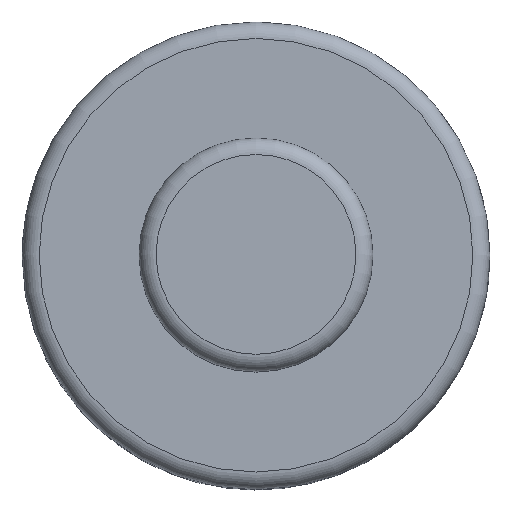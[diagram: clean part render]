
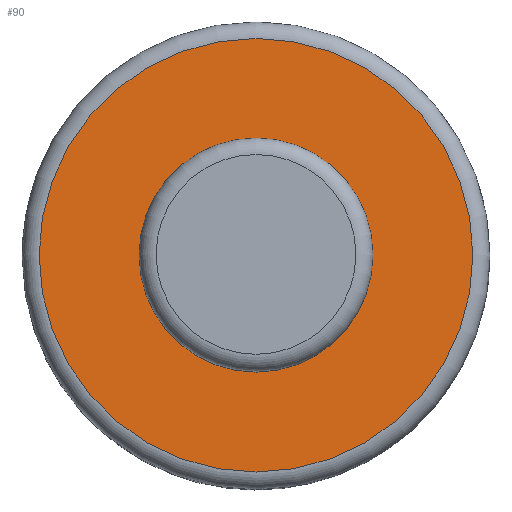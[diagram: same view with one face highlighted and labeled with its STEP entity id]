
A CAD part, top view. The second image highlights one B-rep face of the part: STEP entity #90.
In plain terms, the highlighted planar face has unit normal (0, 0.028, 1).
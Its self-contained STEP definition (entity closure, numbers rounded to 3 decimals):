
#16=FACE_BOUND('',#38,.T.);
#25=PLANE('',#118);
#30=FACE_OUTER_BOUND('',#37,.T.);
#37=EDGE_LOOP('',(#77));
#38=EDGE_LOOP('',(#78));
#44=CIRCLE('',#113,2.066);
#45=CIRCLE('',#115,3.832);
#50=VERTEX_POINT('',#162);
#51=VERTEX_POINT('',#166);
#58=EDGE_CURVE('',#50,#50,#44,.T.);
#59=EDGE_CURVE('',#51,#51,#45,.T.);
#77=ORIENTED_EDGE('',*,*,#59,.F.);
#78=ORIENTED_EDGE('',*,*,#58,.T.);
#90=ADVANCED_FACE('',(#30,#16),#25,.T.);
#113=AXIS2_PLACEMENT_3D('',#164,#136,#137);
#115=AXIS2_PLACEMENT_3D('',#167,#140,#141);
#118=AXIS2_PLACEMENT_3D('',#171,#146,#147);
#136=DIRECTION('center_axis',(0.,-0.028,-1.));
#137=DIRECTION('ref_axis',(1.,0.,0.));
#140=DIRECTION('center_axis',(0.,-0.028,-1.));
#141=DIRECTION('ref_axis',(1.,0.,0.));
#146=DIRECTION('center_axis',(0.,0.028,1.));
#147=DIRECTION('ref_axis',(1.,0.,0.));
#162=CARTESIAN_POINT('',(13568.619,10416.161,-890.962));
#164=CARTESIAN_POINT('Origin',(13570.685,10416.161,-890.962));
#166=CARTESIAN_POINT('',(13566.853,10416.161,-890.962));
#167=CARTESIAN_POINT('Origin',(13570.685,10416.161,-890.962));
#171=CARTESIAN_POINT('Origin',(13600.806,10881.588,-904.011));
